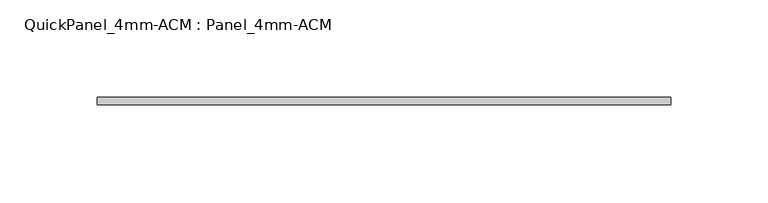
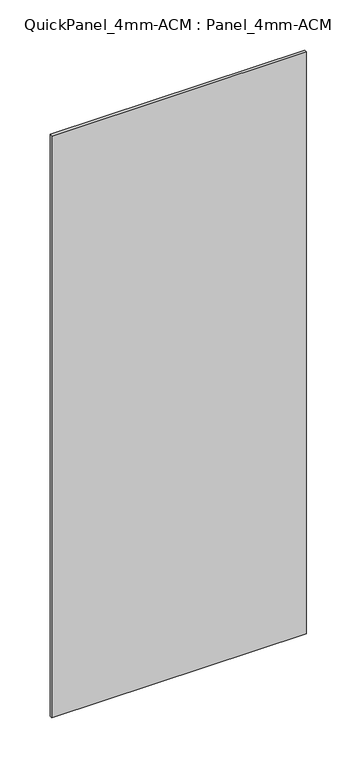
"""IFC4 building model written with IfcOpenShell, lengths in millimetres: plate geometry, QuickPanel_4mm-ACM : Panel_4mm-ACM."""

from ifc_helpers import new_model, si_unit, origin, origin_with_axes, place, context, project, spatial, polyline, outline, extrude, source, transform, mapped, element, save


def quickpanel_4mm_acm_panel_4mm_acm_afee9873(model_context):
    return source(origin(), model_context, "Body", "SweptSolid", [
        extrude(outline(polyline([(-146.9553535, -6.096), (146.9553535, -6.096), (146.9553535, -9.906), (-146.9553535, -9.906), (-146.9553535, -6.096)])), origin_with_axes(), (0.0, 0.0, 1.0), 710.1039948),
    ])


if __name__ == "__main__":
    model = new_model("IFC4")
    model_context = context("Model", 3, world=origin())
    ifc_project = project(units=[si_unit("LENGTHUNIT", "METRE", prefix="MILLI")], contexts=[model_context])
    site = spatial("IfcSite", under=ifc_project)
    building = spatial("IfcBuilding", under=site)
    placement = place(None, origin())
    quickpanel_4mm_acm_panel_4mm_acm_shape = quickpanel_4mm_acm_panel_4mm_acm_afee9873(model_context)
    element("IfcPlate", 1, ObjectType="QuickPanel_4mm-ACM : Panel_4mm-ACM", at=placement, inside=building, context=model_context, shape_type="MappedRepresentation", body=[
        mapped(quickpanel_4mm_acm_panel_4mm_acm_shape, transform((0.0, 0.0, 0.0), x_axis=(1.0, 0.0, 0.0), y_axis=(0.0, 1.0, 0.0), z_axis=(0.0, 0.0, 1.0))),
    ])
    save(model, "model.ifc")
